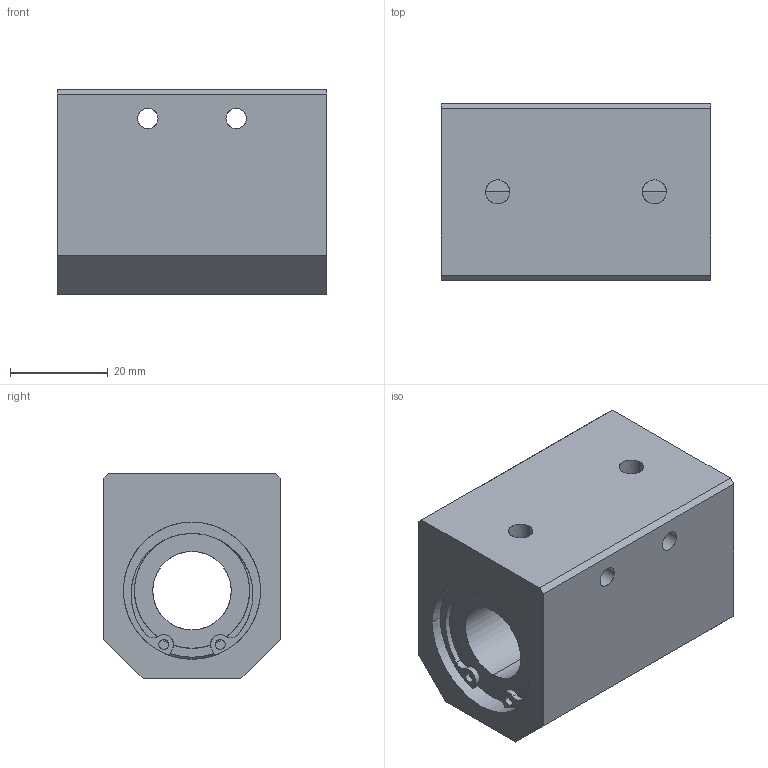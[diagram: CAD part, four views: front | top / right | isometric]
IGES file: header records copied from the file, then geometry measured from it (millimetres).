
Global section: file name: No Iges File Name specified; native system: AutoDesk Inventor R10; preprocessor: AutoDesk Inventor Iges Exporter R10; author: No Author specified; organization: No Organization specified; date: 20101216.151859; units: millimetre
Bounding box: 55 x 36 x 42 mm (x, y, z)
Surface area: 16102.3 mm2 (no closed solid volume)
Topology: 0 solids, 0 shells, 102 faces, 734 edges, 734 vertices
Faces by surface type: bspline 102
